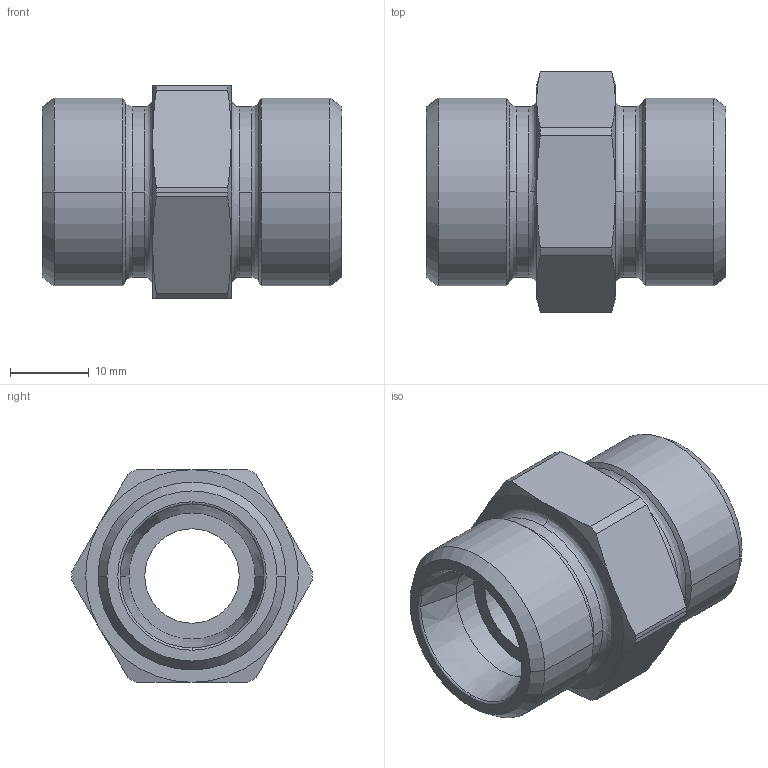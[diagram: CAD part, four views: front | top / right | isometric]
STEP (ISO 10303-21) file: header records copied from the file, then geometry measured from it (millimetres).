
FILE_DESCRIPTION((''),'2;1');
FILE_NAME('103519.stp','2007-10-31T11:32:48',(''),(''),'AutoCAD STEP 2000i','AutoCAD 2000i',', , ');
FILE_SCHEMA(('CONFIG_CONTROL_DESIGN'));
Length unit declared in the file: millimetre
Products named in the file (2): 103519.0; CHIAVE SMUSSATA#0
Assembly tree (1 placements, depth 2):
  103519.0
    CHIAVE SMUSSATA#0
Bounding box: 38 x 30.5 x 27 mm (x, y, z)
Volume: 11984.5 mm3; surface area: 5609.8 mm2
Topology: 1 solids, 1 shells, 70 faces, 172 edges, 108 vertices
Faces by surface type: cone 24, cylinder 22, plane 12, bspline 8, torus 4
Entity records: 2513 total; most frequent: CARTESIAN_POINT 752, DIRECTION 384, ORIENTED_EDGE 344, AXIS2_PLACEMENT_3D 172, EDGE_CURVE 172, VERTEX_POINT 108, CIRCLE 108, EDGE_LOOP 76
